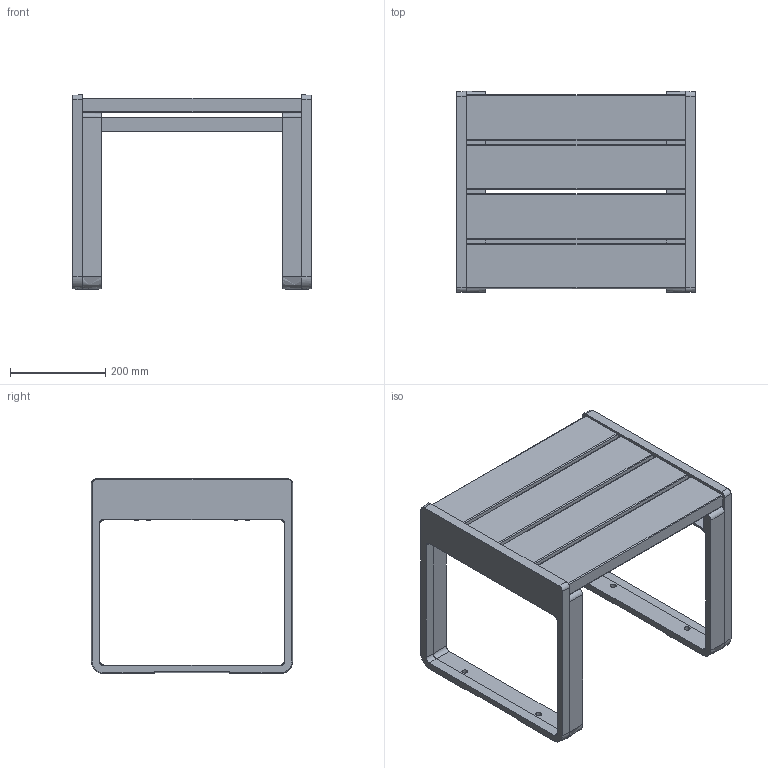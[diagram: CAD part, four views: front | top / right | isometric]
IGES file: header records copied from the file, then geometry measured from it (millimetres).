
Global section: file name: 02フラットベンチFB32-05,35HAutoCAD 20; native system: 25 - 日本語 (Japanese); preprocessor: Autodesk Translation Framework DWG producer (atf_dwg_producer); organization: unknown; date: 20250107.173146; units: millimetre
Bounding box: 500 x 421.8 x 407.22 mm (x, y, z)
Volume: 9689899 mm3; surface area: 2176847.7 mm2
Topology: 52 solids, 52 shells, 1004 faces, 2476 edges, 1524 vertices
Faces by surface type: bspline 1004
